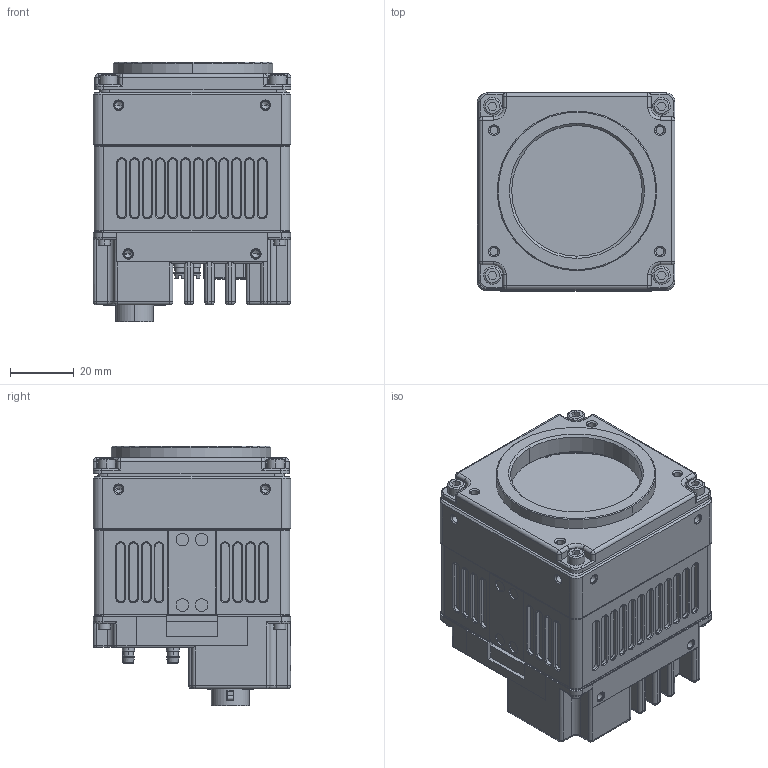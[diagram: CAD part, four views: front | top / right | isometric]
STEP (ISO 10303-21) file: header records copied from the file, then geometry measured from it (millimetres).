
FILE_DESCRIPTION((''),'2;1');
FILE_NAME('PRT0001','2021-12-01T14:10:44',('mta'),(''),'CREO PARAMETRIC BY PTC INC, 2019352','CREO PARAMETRIC BY PTC INC, 2019352','');
FILE_SCHEMA(('AUTOMOTIVE_DESIGN { 1 0 10303 214 1 1 1 1 }'));
Products named in the file (1): PRT0001
Bounding box: 62 x 62 x 81.4 mm (x, y, z)
Volume: 227083.1 mm3; surface area: 42060.4 mm2
Topology: 3 solids, 22 shells, 2513 faces, 6773 edges, 4268 vertices
Faces by surface type: plane 1411, cylinder 772, cone 223, sphere 55, torus 34, bspline 18
Entity records: 97624 total; most frequent: CARTESIAN_POINT 15430, DIRECTION 13359, ORIENTED_EDGE 13352, EDGE_CURVE 6701, AXIS2_PLACEMENT_3D 4476, VECTOR 4407, LINE 4407, VERTEX_POINT 4268
